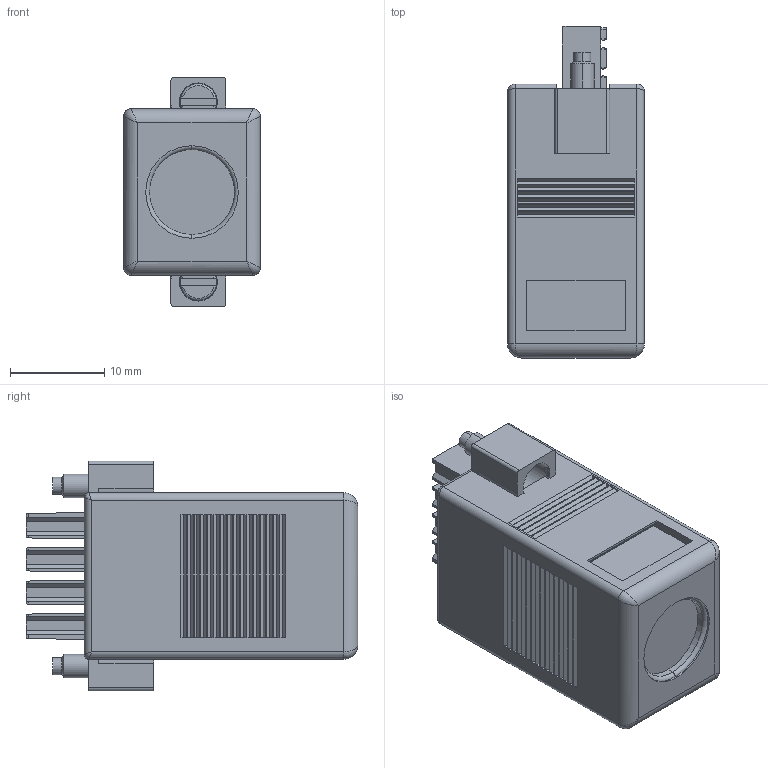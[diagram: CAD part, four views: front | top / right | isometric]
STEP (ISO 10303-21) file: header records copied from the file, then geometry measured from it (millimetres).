
FILE_DESCRIPTION((''),'2;1');
FILE_NAME('CONN_CONT_4_POS_MINI_CMBCN_TB','2007-01-25T',('chrisj'),(''),'PRO/ENGINEER BY PARAMETRIC TECHNOLOGY CORPORATION, 2006080','PRO/ENGINEER BY PARAMETRIC TECHNOLOGY CORPORATION, 2006080','');
FILE_SCHEMA(('AUTOMOTIVE_DESIGN_CC2 { 1 2 10303 214 -1 1 5 2 }'));
Length unit declared in the file: inch
Products named in the file (1): CONN_CONT_4_POS_MINI_CMBCN_TB
Bounding box: 14.5 x 35.15 x 24.3 mm (x, y, z)
Volume: 7168.8 mm3; surface area: 4402.1 mm2
Topology: 3 solids, 3 shells, 760 faces, 1968 edges, 1264 vertices
Faces by surface type: plane 498, cylinder 180, torus 42, cone 32, bspline 8
Entity records: 25223 total; most frequent: CARTESIAN_POINT 6602, ORIENTED_EDGE 3920, DIRECTION 3698, EDGE_CURVE 1960, VECTOR 1418, LINE 1418, VERTEX_POINT 1264, AXIS2_PLACEMENT_3D 1140
